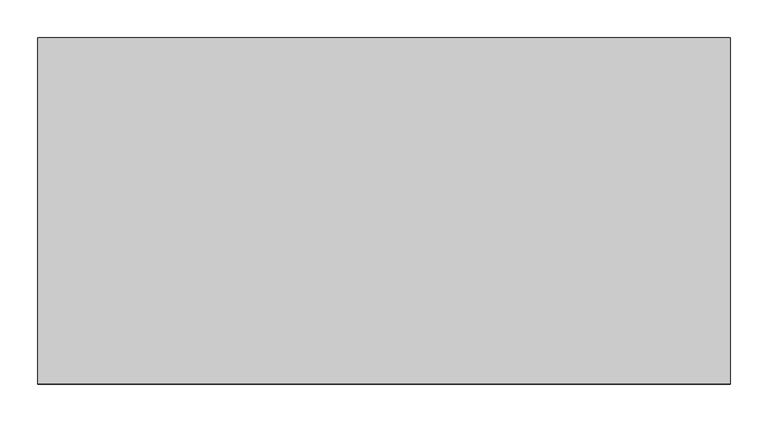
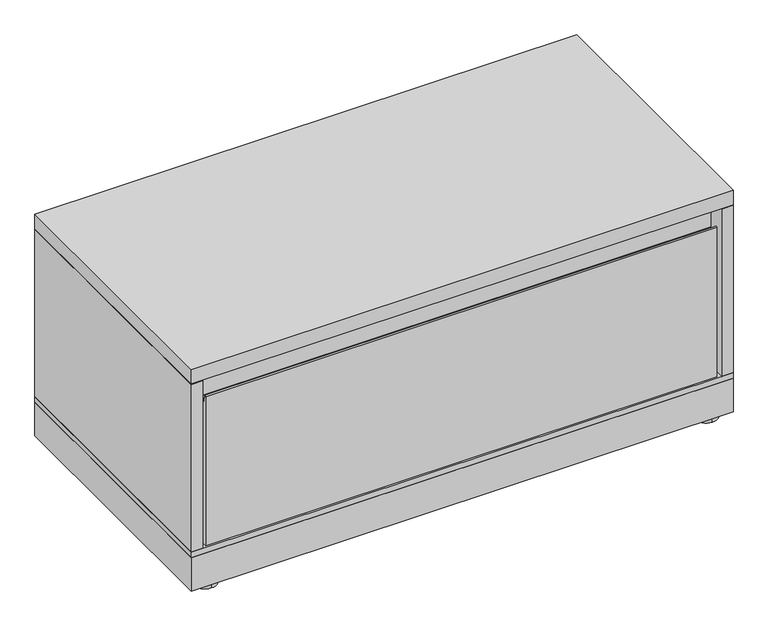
"""IFC4 building model written with IfcOpenShell, lengths in millimetres: furniture geometry, Steelcase - Universal Storage - Lateral File - 1 High - Flush Steel : Drawer - 18D x 36W."""

import ifcopenshell
import ifcopenshell.guid

model = None  # the IFC model being written
_history = None  # IfcOwnerHistory: only IFC2X3 demands one
_inside = {}  # id of a spatial element -> (the spatial element, [elements in it])
_under = {}  # id of a project, library or spatial element -> (it, [spatial elements below it])
_declared = {}  # id of a project -> (the project, [libraries it declares])
_typed = {}  # id of a type object -> (the type object, [elements of that type])
_made_of = {}  # id of a material, layer set ... -> (it, [elements and type objects made of it])


def new_model(schema):
    """Start an empty IFC model of exactly this schema.

    Asked for "IFC4X3", IfcOpenShell would pick the latest addendum, in which some entities
    have other attributes; the version numbers below select the first issue.
    IFC2X3 requires an IfcOwnerHistory on every rooted entity: one is made here for all.
    """
    global model, _history
    if schema == "IFC4X3":
        model = ifcopenshell.file(schema_version=(4, 3, 0, 0))
    else:
        model = ifcopenshell.file(schema=schema)
    _inside.clear()
    _under.clear()
    _declared.clear()
    _typed.clear()
    _made_of.clear()
    _history = None
    if model.schema == "IFC2X3":
        org = make("IfcOrganization", Name="unknown")
        user = make(
            "IfcPersonAndOrganization",
            ThePerson=make("IfcPerson", FamilyName="unknown"),
            TheOrganization=org,
        )
        app = make(
            "IfcApplication",
            ApplicationDeveloper=org,
            Version="unknown",
            ApplicationFullName="unknown",
            ApplicationIdentifier="unknown",
        )
        _history = make(
            "IfcOwnerHistory",
            OwningUser=user,
            OwningApplication=app,
            ChangeAction="ADDED",
            CreationDate=0,
        )
    return model


def make(cls, **values):
    """One entity of the class cls with the attributes given. An attribute that is None is left unset."""
    return model.create_entity(
        cls, **{name: value for name, value in values.items() if value is not None}
    )


def rooted(cls, **values):
    """An entity with a GlobalId (a new one), such as an element, a storey or a relation."""
    return make(cls, GlobalId=ifcopenshell.guid.new(), OwnerHistory=_history, **values)


def si_unit(unit_type, name, prefix=None):
    """IfcSIUnit, for example si_unit("LENGTHUNIT", "METRE", prefix="MILLI")."""
    return make("IfcSIUnit", UnitType=unit_type, Prefix=prefix, Name=name)


def assignment(units):
    """IfcUnitAssignment: the units of a project."""
    return None if units is None else make("IfcUnitAssignment", Units=units)


def point(xyz):
    """IfcCartesianPoint."""
    return None if xyz is None else make("IfcCartesianPoint", Coordinates=xyz)


def direction(xyz):
    """IfcDirection."""
    return None if xyz is None else make("IfcDirection", DirectionRatios=xyz)


def frame(location, z_axis=None, x_axis=None):
    """IfcAxis2Placement3D, a coordinate frame: its origin and axes. An axis left out is left unset."""
    return make(
        "IfcAxis2Placement3D",
        Location=point(location),
        Axis=direction(z_axis),
        RefDirection=direction(x_axis),
    )


def frame_2d(location, x_axis=None):
    """IfcAxis2Placement2D, a coordinate frame in the plane: its origin and x axis."""
    return make(
        "IfcAxis2Placement2D", Location=point(location), RefDirection=direction(x_axis)
    )


def origin():
    """The frame at (0, 0, 0) with its axes left unset."""
    return frame((0.0, 0.0, 0.0))


def origin_with_axes():
    """The frame at (0, 0, 0) with the z axis (0, 0, 1) and the x axis (1, 0, 0) written out."""
    return frame((0.0, 0.0, 0.0), z_axis=(0.0, 0.0, 1.0), x_axis=(1.0, 0.0, 0.0))


def place(relative_to, where):
    """IfcLocalPlacement: puts the frame where relative to a parent placement (None: the world)."""
    return make(
        "IfcLocalPlacement", PlacementRelTo=relative_to, RelativePlacement=where
    )


def context(
    kind, dimensions, precision=None, world=None, true_north=None, identifier=None
):
    """IfcGeometricRepresentationContext, for example the 3D "Model" context."""
    return make(
        "IfcGeometricRepresentationContext",
        ContextIdentifier=identifier,
        ContextType=kind,
        CoordinateSpaceDimension=dimensions,
        Precision=precision,
        WorldCoordinateSystem=world,
        TrueNorth=true_north,
    )


def project(units=None, contexts=None):
    """IfcProject with its units and contexts."""
    return rooted(
        "IfcProject",
        Name="project",
        RepresentationContexts=contexts,
        UnitsInContext=assignment(units),
    )


def spatial(cls, under=None, at=None, **own):
    """A site, building, storey or space (cls), placed at a placement, below another one or the project."""
    s = rooted(cls, ObjectPlacement=at, **own)
    if under is not None:
        _under.setdefault(under.id(), (under, []))[1].append(s)
    return s


def polyline(points):
    """IfcPolyline through the points."""
    return make("IfcPolyline", Points=[point(p) for p in points])


def circle_curve(where, radius):
    """IfcCircle in the frame where."""
    return make("IfcCircle", Position=where, Radius=radius)


def trimmed(basis, trim1, trim2, sense, master):
    """IfcTrimmedCurve: the piece of a basis curve between two trims."""
    return make(
        "IfcTrimmedCurve",
        BasisCurve=basis,
        Trim1=trim1,
        Trim2=trim2,
        SenseAgreement=sense,
        MasterRepresentation=master,
    )


def segment(curve, same_sense, transition):
    """IfcCompositeCurveSegment."""
    return make(
        "IfcCompositeCurveSegment",
        Transition=transition,
        SameSense=same_sense,
        ParentCurve=curve,
    )


def composite_curve(segments, self_intersect=None):
    """IfcCompositeCurve: segments joined end to end."""
    return make("IfcCompositeCurve", Segments=segments, SelfIntersect=self_intersect)


def outline(outer, holes=None, kind="AREA"):
    """IfcArbitraryClosedProfileDef: a profile drawn as a closed curve; with holes, ...WithVoids."""
    if holes is None:
        return make("IfcArbitraryClosedProfileDef", ProfileType=kind, OuterCurve=outer)
    return make(
        "IfcArbitraryProfileDefWithVoids",
        ProfileType=kind,
        OuterCurve=outer,
        InnerCurves=holes,
    )


def extrude(swept, where, along, depth):
    """IfcExtrudedAreaSolid: the profile swept, set in the frame where, extruded along a direction by depth."""
    return make(
        "IfcExtrudedAreaSolid",
        SweptArea=swept,
        Position=where,
        ExtrudedDirection=direction(along),
        Depth=depth,
    )


def shape(context_of_items, identifier, shape_type, items):
    """IfcShapeRepresentation: the items that make up one representation, for example the "Body"."""
    return make(
        "IfcShapeRepresentation",
        ContextOfItems=context_of_items,
        RepresentationIdentifier=identifier,
        RepresentationType=shape_type,
        Items=items,
    )


def source(mapping_origin, context_of_items, identifier, shape_type, items):
    """IfcRepresentationMap: a shape defined once, which mapped items show again and again."""
    return make(
        "IfcRepresentationMap",
        MappingOrigin=mapping_origin,
        MappedRepresentation=shape(context_of_items, identifier, shape_type, items),
    )


def transform(
    local_origin,
    x_axis=None,
    y_axis=None,
    z_axis=None,
    scale=None,
    scale2=None,
    scale3=None,
    uniform=True,
):
    """IfcCartesianTransformationOperator3D, or its non-uniform kind. x_axis, y_axis, z_axis: its Axis1, 2, 3."""
    if uniform:
        return make(
            "IfcCartesianTransformationOperator3D",
            Axis1=direction(x_axis),
            Axis2=direction(y_axis),
            LocalOrigin=point(local_origin),
            Scale=scale,
            Axis3=direction(z_axis),
        )
    return make(
        "IfcCartesianTransformationOperator3DnonUniform",
        Axis1=direction(x_axis),
        Axis2=direction(y_axis),
        LocalOrigin=point(local_origin),
        Scale=scale,
        Axis3=direction(z_axis),
        Scale2=scale2,
        Scale3=scale3,
    )


def mapped(mapping_source, mapping_target):
    """IfcMappedItem: shows the shape of a source again, moved by a transform."""
    return make(
        "IfcMappedItem", MappingSource=mapping_source, MappingTarget=mapping_target
    )


def made_of(thing, what):
    """Note that an element or type object is made of a material, layer set ...; save() writes the relation."""
    if what is not None:
        _made_of.setdefault(what.id(), (what, []))[1].append(thing)
    return thing


def element(
    cls,
    number,
    at=None,
    inside=None,
    cuts=None,
    type_object=None,
    material=None,
    context=None,
    identifier="Body",
    shape_type=None,
    held_by="IfcProductDefinitionShape",
    body=None,
    shapes=None,
    **own,
):
    """One element of the class cls, such as IfcWall. Its Tag is "e" and its number.

    at: its placement. inside: the storey or other place that contains it. cuts: it is an
    opening in that element (IfcRelVoidsElement). A single representation is given by context,
    identifier, shape_type and body (its items); several are given by shapes. held_by: the class
    of the entity that holds the representations. save() writes the other relations.
    """
    e = rooted(cls, Tag="e%d" % number, ObjectPlacement=at, **own)
    if body is not None:
        shapes = [shape(context, identifier, shape_type, body)]
    if shapes is not None:
        e.Representation = make(held_by, Representations=shapes)
    if inside is not None:
        _inside.setdefault(inside.id(), (inside, []))[1].append(e)
    if cuts is not None:
        rooted(
            "IfcRelVoidsElement", RelatingBuildingElement=cuts, RelatedOpeningElement=e
        )
    if type_object is not None:
        _typed.setdefault(type_object.id(), (type_object, []))[1].append(e)
    return made_of(e, material)


def aggregate(whole, parts):
    """IfcRelAggregates: a whole, such as a stair, and the parts it consists of."""
    return rooted("IfcRelAggregates", RelatingObject=whole, RelatedObjects=parts)


def save(model, path):
    """Write the relations noted so far, then the file.

    IfcRelAggregates (storeys below a building ...), IfcRelContainedInSpatialStructure (elements
    in a storey), IfcRelDefinesByType, IfcRelAssociatesMaterial and IfcRelDeclares: one each for
    every whole, place, type object, material and project.
    """
    for whole, parts in _under.values():
        aggregate(whole, parts)
    for where, things in _inside.values():
        rooted(
            "IfcRelContainedInSpatialStructure",
            RelatedElements=things,
            RelatingStructure=where,
        )
    for kind, things in _typed.values():
        rooted("IfcRelDefinesByType", RelatedObjects=things, RelatingType=kind)
    for what, things in _made_of.values():
        rooted("IfcRelAssociatesMaterial", RelatedObjects=things, RelatingMaterial=what)
    for by, libraries in _declared.values():
        rooted("IfcRelDeclares", RelatingContext=by, RelatedDefinitions=libraries)
    model.write(path)


def furniture_684c961e(model_context):
    return source(origin(), model_context, "Body", "SweptSolid", [
        extrude(outline(polyline([(914.4, 457.2), (914.4, 0.0), (0.0, 0.0), (0.0, 457.2), (914.4, 457.2)])), frame((0.0, 0.0, 6.3500002), z_axis=(0.0, 0.0, 1.0), x_axis=(1.0, 0.0, 0.0)), (0.0, 0.0, 1.0), 59.6899998),
        extrude(outline(composite_curve([segment(trimmed(circle_curve(frame_2d((879.7290058, 434.8633666)), 20.32), [point((879.7290058, 414.5433666))], [point((879.7290058, 455.1833666))], False, "CARTESIAN"), True, "CONTINUOUS"), segment(trimmed(circle_curve(frame_2d((879.7290058, 434.8633666)), 20.32), [point((879.7290058, 455.1833666))], [point((879.7290058, 414.5433666))], False, "CARTESIAN"), True, "CONTINUOUS")], self_intersect=False)), origin_with_axes(), (0.0, 0.0, 1.0), 6.3500002),
        extrude(outline(composite_curve([segment(trimmed(circle_curve(frame_2d((879.7290058, 20.7491455)), 20.32), [point((879.7290058, 0.4291455))], [point((879.7290058, 41.0691455))], False, "CARTESIAN"), True, "CONTINUOUS"), segment(trimmed(circle_curve(frame_2d((879.7290058, 20.7491455)), 20.32), [point((879.7290058, 41.0691455))], [point((879.7290058, 0.4291455))], False, "CARTESIAN"), True, "CONTINUOUS")], self_intersect=False)), origin_with_axes(), (0.0, 0.0, 1.0), 6.3500002),
        extrude(outline(composite_curve([segment(trimmed(circle_curve(frame_2d((34.29, 434.8633666)), 20.32), [point((34.29, 455.1833666))], [point((34.29, 414.5433666))], False, "CARTESIAN"), True, "CONTINUOUS"), segment(trimmed(circle_curve(frame_2d((34.29, 434.8633666)), 20.32), [point((34.29, 414.5433666))], [point((34.29, 455.1833666))], False, "CARTESIAN"), True, "CONTINUOUS")], self_intersect=False)), origin_with_axes(), (0.0, 0.0, 1.0), 6.3500002),
        extrude(outline(composite_curve([segment(trimmed(circle_curve(frame_2d((34.29, 20.7491455)), 20.32), [point((34.29, 41.0691455))], [point((34.29, 0.4291455))], False, "CARTESIAN"), True, "CONTINUOUS"), segment(trimmed(circle_curve(frame_2d((34.29, 20.7491455)), 20.32), [point((34.29, 0.4291455))], [point((34.29, 41.0691455))], False, "CARTESIAN"), True, "CONTINUOUS")], self_intersect=False)), origin_with_axes(), (0.0, 0.0, 1.0), 6.3500002),
        extrude(outline(composite_curve([segment(polyline([(25.4254103, 76.2), (3.2004224, 76.2), (3.2004224, 342.8171562)]), True, "CONTINUOUS"), segment(trimmed(circle_curve(frame_2d((4.3477111, 342.8171562)), 1.1472887), [point((3.2004224, 342.8171562))], [point((5.4949998, 342.8171562))], False, "CARTESIAN"), True, "CONTINUOUS"), segment(polyline([(5.4949998, 342.8171562), (6.7505036, 332.5918984)]), True, "CONTINUOUS"), segment(trimmed(circle_curve(frame_2d((10.035785, 332.9952802)), 3.3099532), [point((6.7505036, 332.5918984))], [point((10.035785, 329.685327))], True, "CARTESIAN"), True, "CONTINUOUS"), segment(polyline([(10.035785, 329.685327), (17.8753095, 329.685327)]), True, "CONTINUOUS"), segment(trimmed(circle_curve(frame_2d((17.8753095, 332.8666173)), 3.1812904), [point((17.8753095, 329.685327))], [point((21.0565999, 332.8666173))], True, "CARTESIAN"), True, "CONTINUOUS"), segment(polyline([(21.0565999, 332.8666173), (21.0565999, 373.5831925)]), True, "CONTINUOUS"), segment(trimmed(circle_curve(frame_2d((21.8270776, 373.5831925)), 0.7704777), [point((21.0565999, 373.5831925))], [point((21.5798734, 374.3129363))], False, "CARTESIAN"), True, "CONTINUOUS"), segment(trimmed(circle_curve(frame_2d((22.5148866, 371.5527885)), 2.9142178), [point((21.5798734, 374.3129363))], [point((25.4254103, 371.6994776))], False, "CARTESIAN"), True, "CONTINUOUS"), segment(polyline([(25.4254103, 371.6994776), (25.4254103, 76.2)]), True, "CONTINUOUS")], self_intersect=False)), frame((25.908, 0.0, 0.0), z_axis=(1.0, 0.0, 0.0), x_axis=(0.0, 1.0, 0.0)), (0.0, 0.0, 1.0), 862.584),
        extrude(outline(polyline([(914.4, 0.0), (0.0, 0.0), (0.0, 457.2), (914.4, 457.2), (914.4, 0.0)])), frame((0.0, 0.0, 376.3010136), z_axis=(0.0, 0.0, 1.0), x_axis=(1.0, 0.0, 0.0)), (0.0, 0.0, 1.0), 25.3999758),
        extrude(outline(polyline([(914.4, 0.0), (0.0, 0.0), (0.0, 457.2), (914.4, 457.2), (914.4, 0.0)])), frame((0.0, 0.0, 66.04), z_axis=(0.0, 0.0, 1.0), x_axis=(1.0, 0.0, 0.0)), (0.0, 0.0, 1.0), 10.16),
        extrude(outline(polyline([(0.0, 457.2), (914.4, 457.2), (914.4, 0.0), (894.8419641, 0.0), (894.8419641, 456.438), (19.558, 456.438), (19.558, 0.0), (0.0, 0.0), (0.0, 457.2)])), frame((0.0, 0.0, 76.2), z_axis=(0.0, 0.0, 1.0), x_axis=(1.0, 0.0, 0.0)), (0.0, 0.0, 1.0), 298.577),
    ])


if __name__ == "__main__":
    model = new_model("IFC4")
    model_context = context("Model", 3, world=origin())
    ifc_project = project(units=[si_unit("LENGTHUNIT", "METRE", prefix="MILLI")], contexts=[model_context])
    site = spatial("IfcSite", under=ifc_project)
    building = spatial("IfcBuilding", under=site)
    placement = place(None, origin())
    furniture_shape = furniture_684c961e(model_context)
    element("IfcFurniture", 1, ObjectType="Steelcase - Universal Storage - Lateral File - 1 High - Flush Steel : Drawer - 18D x 36W", at=placement, inside=building, context=model_context, shape_type="MappedRepresentation", body=[
        mapped(furniture_shape, transform((0.0, 0.0, 0.0), x_axis=(1.0, 0.0, 0.0), y_axis=(0.0, 1.0, 0.0), z_axis=(0.0, 0.0, 1.0))),
    ])
    save(model, "model.ifc")
